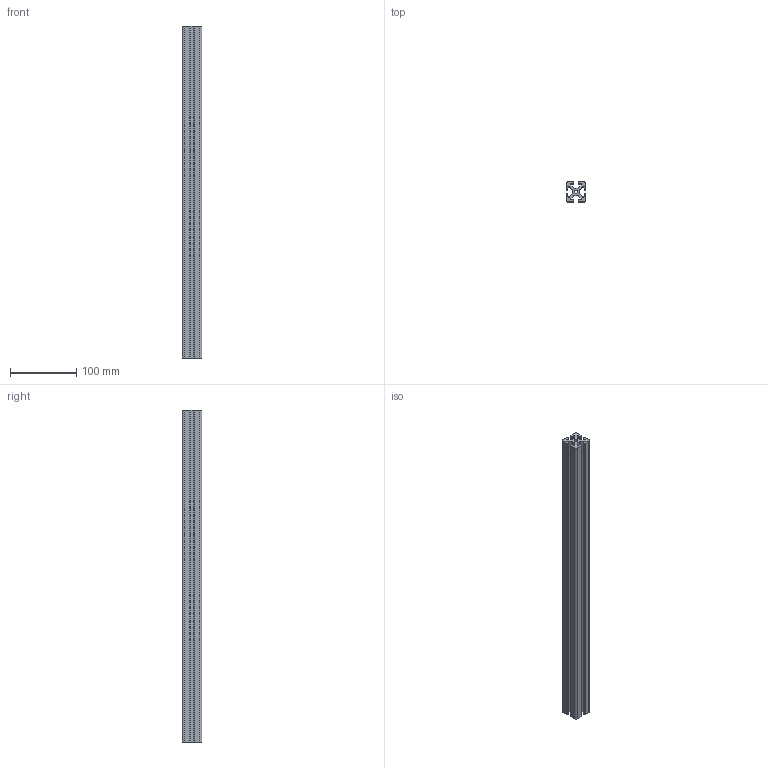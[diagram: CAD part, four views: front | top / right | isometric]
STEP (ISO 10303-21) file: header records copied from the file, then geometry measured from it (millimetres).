
FILE_DESCRIPTION (( 'STEP AP203' ), '1' );
FILE_NAME ('M ATP I6 3030.STEP', '2012-06-04T09:13:01', ( 'alle' ), ( 'Hewlett-Packard Company' ), 'SwSTEP 2.0', 'SolidWorks 2011', '' );
FILE_SCHEMA (( 'CONFIG_CONTROL_DESIGN' ));
Length unit declared in the file: millimetre
Products named in the file (1): M ATP I6 3030
Bounding box: 30 x 30 x 500 mm (x, y, z)
Volume: 230128.6 mm3; surface area: 127508.1 mm2
Topology: 1 solids, 1 shells, 78 faces, 228 edges, 152 vertices
Faces by surface type: cylinder 40, plane 38
Entity records: 2693 total; most frequent: DIRECTION 466, CARTESIAN_POINT 459, ORIENTED_EDGE 456, EDGE_CURVE 228, AXIS2_PLACEMENT_3D 159, VERTEX_POINT 152, VECTOR 148, LINE 148
